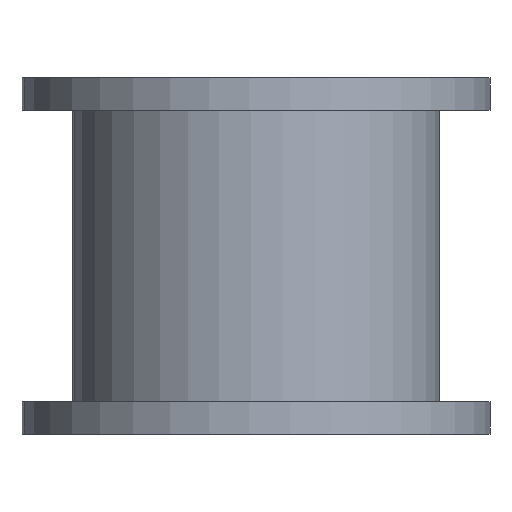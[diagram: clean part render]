
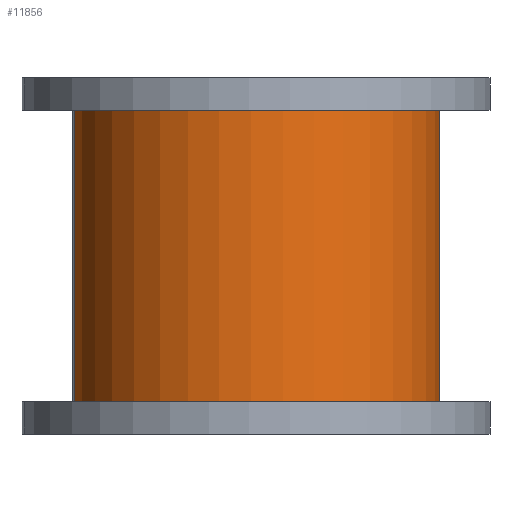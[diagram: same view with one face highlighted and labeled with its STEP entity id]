
A CAD part, front view. The second image highlights one B-rep face of the part: STEP entity #11856.
In plain terms, the highlighted cylindrical face has radius 180 mm (diameter 360 mm), a partial arc.
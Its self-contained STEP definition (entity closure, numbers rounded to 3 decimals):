
#134 = CARTESIAN_POINT ( 'NONE',  ( -180., 0., -143. ) ) ;
#1315 = VERTEX_POINT ( 'NONE', #12588 ) ;
#1811 = ORIENTED_EDGE ( 'NONE', *, *, #10617, .F. ) ;
#1929 = LINE ( 'NONE', #134, #7842 ) ;
#2525 = DIRECTION ( 'NONE',  ( 1., 0., 0. ) ) ;
#2679 = ORIENTED_EDGE ( 'NONE', *, *, #12553, .F. ) ;
#2729 = CYLINDRICAL_SURFACE ( 'NONE', #10813, 180. ) ;
#3270 = EDGE_LOOP ( 'NONE', ( #2679, #5764, #13098, #1811 ) ) ;
#3992 = CARTESIAN_POINT ( 'NONE',  ( 0., 0., 143. ) ) ;
#4612 = CARTESIAN_POINT ( 'NONE',  ( 0., 0., -143. ) ) ;
#5377 = EDGE_CURVE ( 'NONE', #1315, #7313, #5879, .T. ) ;
#5512 = CIRCLE ( 'NONE', #7480, 180. ) ;
#5529 = CARTESIAN_POINT ( 'NONE',  ( -180., 0., 143. ) ) ;
#5764 = ORIENTED_EDGE ( 'NONE', *, *, #5377, .T. ) ;
#5879 = CIRCLE ( 'NONE', #9782, 180. ) ;
#6055 = DIRECTION ( 'NONE',  ( 0., 0., 1. ) ) ;
#6537 = CARTESIAN_POINT ( 'NONE',  ( 0., 0., -143. ) ) ;
#6607 = DIRECTION ( 'NONE',  ( 1., 0., 0. ) ) ;
#6864 = DIRECTION ( 'NONE',  ( 0., 0., 1. ) ) ;
#7058 = DIRECTION ( 'NONE',  ( 0., 0., 1. ) ) ;
#7313 = VERTEX_POINT ( 'NONE', #8101 ) ;
#7320 = EDGE_CURVE ( 'NONE', #7313, #11683, #11115, .T. ) ;
#7480 = AXIS2_PLACEMENT_3D ( 'NONE', #3992, #7058, #8080 ) ;
#7554 = VERTEX_POINT ( 'NONE', #5529 ) ;
#7842 = VECTOR ( 'NONE', #6055, 1000. ) ;
#8080 = DIRECTION ( 'NONE',  ( 1., 0., 0. ) ) ;
#8101 = CARTESIAN_POINT ( 'NONE',  ( 180., 0., -143. ) ) ;
#9148 = VECTOR ( 'NONE', #11185, 1000. ) ;
#9488 = CARTESIAN_POINT ( 'NONE',  ( 180., 0., 143. ) ) ;
#9782 = AXIS2_PLACEMENT_3D ( 'NONE', #6537, #12542, #6607 ) ;
#10617 = EDGE_CURVE ( 'NONE', #7554, #11683, #5512, .T. ) ;
#10813 = AXIS2_PLACEMENT_3D ( 'NONE', #4612, #6864, #2525 ) ;
#11115 = LINE ( 'NONE', #12273, #9148 ) ;
#11185 = DIRECTION ( 'NONE',  ( 0., 0., 1. ) ) ;
#11683 = VERTEX_POINT ( 'NONE', #9488 ) ;
#11786 = FACE_OUTER_BOUND ( 'NONE', #3270, .T. ) ;
#11856 = ADVANCED_FACE ( 'NONE', ( #11786 ), #2729, .T. ) ;
#12273 = CARTESIAN_POINT ( 'NONE',  ( 180., 0., -143. ) ) ;
#12542 = DIRECTION ( 'NONE',  ( 0., 0., 1. ) ) ;
#12553 = EDGE_CURVE ( 'NONE', #1315, #7554, #1929, .T. ) ;
#12588 = CARTESIAN_POINT ( 'NONE',  ( -180., 0., -143. ) ) ;
#13098 = ORIENTED_EDGE ( 'NONE', *, *, #7320, .T. ) ;
